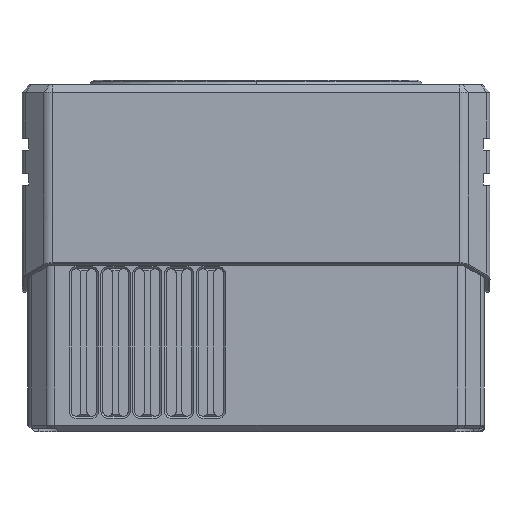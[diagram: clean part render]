
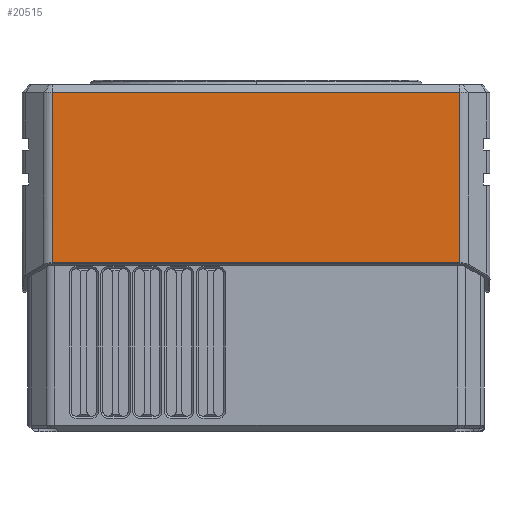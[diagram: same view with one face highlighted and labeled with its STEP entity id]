
A CAD part, left-side view. The second image highlights one B-rep face of the part: STEP entity #20515.
In plain terms, the highlighted planar face has unit normal (-1, 0, 0).
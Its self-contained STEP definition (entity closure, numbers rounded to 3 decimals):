
#2813=DIRECTION('',(0.,0.,1.));
#2814=VECTOR('',#2813,43.607);
#2815=CARTESIAN_POINT('',(-60.,-52.257,
-23.727));
#2816=LINE('',#2815,#2814);
#2817=DIRECTION('',(0.,-1.,0.));
#2818=VECTOR('',#2817,104.515);
#2819=CARTESIAN_POINT('',(-60.,52.257,
-23.727));
#2820=LINE('',#2819,#2818);
#2847=DIRECTION('',(0.,0.,-1.));
#2848=VECTOR('',#2847,43.607);
#2849=CARTESIAN_POINT('',(-60.,52.257,19.88));
#2850=LINE('',#2849,#2848);
#3475=DIRECTION('',(0.,1.,0.));
#3476=VECTOR('',#3475,104.515);
#3477=CARTESIAN_POINT('',(-60.,-52.257,
19.88));
#3478=LINE('',#3477,#3476);
#13294=CARTESIAN_POINT('',(-60.,52.257,
-23.727));
#13295=CARTESIAN_POINT('',(-60.,-52.257,
-23.727));
#13296=VERTEX_POINT('',#13294);
#13297=VERTEX_POINT('',#13295);
#13306=CARTESIAN_POINT('',(-60.,-52.257,
19.88));
#13307=VERTEX_POINT('',#13306);
#13404=CARTESIAN_POINT('',(-60.,52.257,
19.88));
#13405=VERTEX_POINT('',#13404);
#20501=CARTESIAN_POINT('',(-60.,0.,-1.923));
#20502=DIRECTION('',(1.,0.,0.));
#20503=DIRECTION('',(0.,-1.,0.));
#20504=AXIS2_PLACEMENT_3D('',#20501,#20502,#20503);
#20505=PLANE('',#20504);
#20507=ORIENTED_EDGE('',*,*,#20506,.F.);
#20509=ORIENTED_EDGE('',*,*,#20508,.F.);
#20511=ORIENTED_EDGE('',*,*,#20510,.F.);
#20512=ORIENTED_EDGE('',*,*,#20493,.F.);
#20513=EDGE_LOOP('',(#20507,#20509,#20511,#20512));
#20514=FACE_OUTER_BOUND('',#20513,.F.);
#20515=ADVANCED_FACE('',(#20514),#20505,.F.);
#20493=EDGE_CURVE('',#13297,#13307,#2816,.T.);
#20506=EDGE_CURVE('',#13296,#13297,#2820,.T.);
#20508=EDGE_CURVE('',#13405,#13296,#2850,.T.);
#20510=EDGE_CURVE('',#13307,#13405,#3478,.T.);
